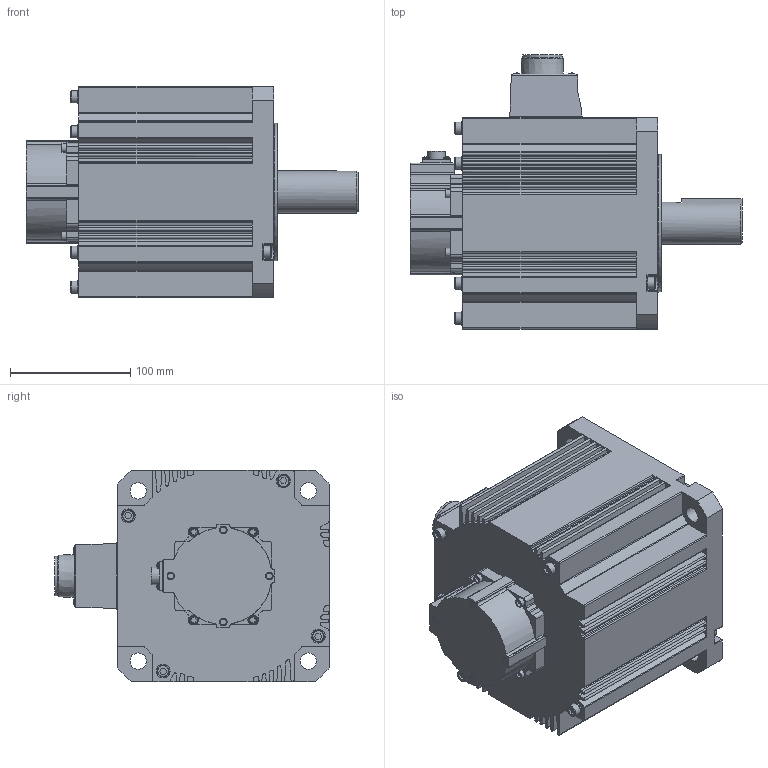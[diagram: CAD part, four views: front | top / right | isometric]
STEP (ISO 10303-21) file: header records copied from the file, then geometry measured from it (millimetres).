
FILE_DESCRIPTION( ( 'STEP AP0' ), '1' );
FILE_NAME( '//expscmdclustefs.cadenas.external/client_exchange/iodir/jobs/output/wkb64903896_no0/STEP/MDME404G1H_2_03.stp', ' ', ( ' ' ), ( ' ' ), 'PSStep 15.0.47', 'PARTsolutions', ' ' );
FILE_SCHEMA( ( 'CONFIG_CONTROL_DESIGN' ) );
Length unit declared in the file: millimetre
Products named in the file (1): HI_MDME404G1H
Bounding box: 276 x 228 x 176 mm (x, y, z)
Volume: 4884826.9 mm3; surface area: 254569.8 mm2
Topology: 1 solids, 1 shells, 595 faces, 1560 edges, 1019 vertices
Faces by surface type: plane 313, cylinder 235, cone 22, torus 13, sphere 8, bspline 4
Full cylindrical faces by diameter (mm): 2.459 x1, 5.5 x4, 6.5 x4, 7 x4, 10 x8, 11.5 x8, 13.5 x4, 14.8 x1, 32.9 x1, 35 x1, 52 x1, 58 x1, 67 x1, 105 x1, 114.3 x1
Entity records: 18178 total; most frequent: CARTESIAN_POINT 3451, DIRECTION 3146, ORIENTED_EDGE 2916, EDGE_CURVE 1458, AXIS2_PLACEMENT_3D 1131, VERTEX_POINT 1008, LINE 884, VECTOR 884
